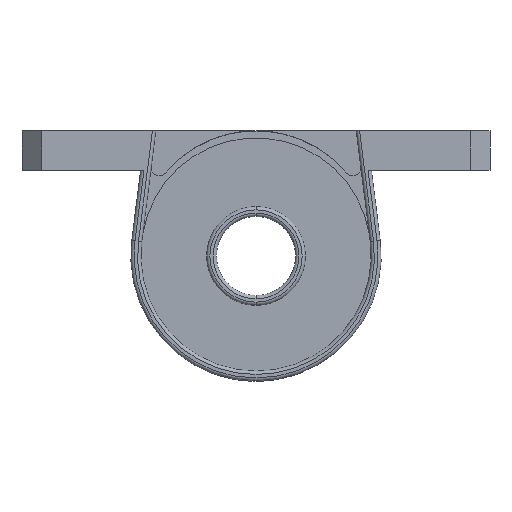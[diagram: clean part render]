
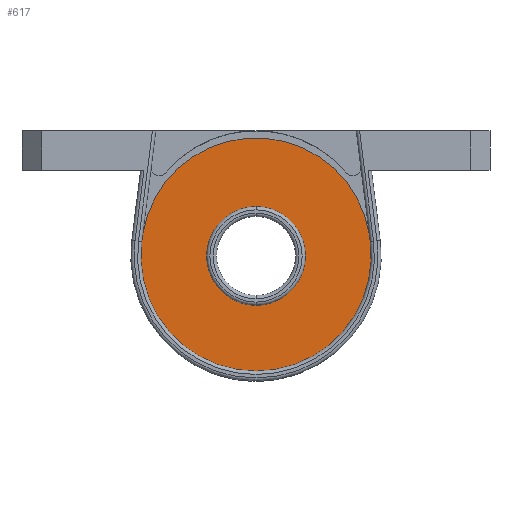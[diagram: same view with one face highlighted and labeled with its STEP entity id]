
A CAD part, front view. The second image highlights one B-rep face of the part: STEP entity #617.
In plain terms, the highlighted planar face has unit normal (0, -1, 0).
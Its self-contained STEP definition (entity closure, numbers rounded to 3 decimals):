
#617 = ADVANCED_FACE ( 'NONE', ( #7031, #7118 ), #7092, .F. ) ;
#827 = VECTOR ( 'NONE', #7172, 1000. ) ;
#836 = LINE ( 'NONE', #4026, #827 ) ;
#948 = ORIENTED_EDGE ( 'NONE', *, *, #9709, .T. ) ;
#952 = CIRCLE ( 'NONE', #1511, 17.47 ) ;
#969 = CARTESIAN_POINT ( 'NONE',  ( -17.332, -2.5, 2.194 ) ) ;
#980 = DIRECTION ( 'NONE',  ( -0.126, 0., -0.992 ) ) ;
#1070 = ORIENTED_EDGE ( 'NONE', *, *, #6196, .F. ) ;
#1168 = DIRECTION ( 'NONE',  ( 0., -1., 0. ) ) ;
#1235 = CARTESIAN_POINT ( 'NONE',  ( 0., -2.5, 7.5 ) ) ;
#1393 = DIRECTION ( 'NONE',  ( 0., -1., 0. ) ) ;
#1511 = AXIS2_PLACEMENT_3D ( 'NONE', #5959, #1168, #6739 ) ;
#1613 = DIRECTION ( 'NONE',  ( 0., 1., 0. ) ) ;
#1677 = DIRECTION ( 'NONE',  ( 0., -1., 0. ) ) ;
#1691 = CIRCLE ( 'NONE', #5586, 17.414 ) ;
#1709 = EDGE_CURVE ( 'NONE', #4967, #3657, #5557, .T. ) ;
#2015 = VERTEX_POINT ( 'NONE', #7539 ) ;
#3030 = EDGE_CURVE ( 'NONE', #5185, #9499, #3746, .T. ) ;
#3234 = ORIENTED_EDGE ( 'NONE', *, *, #1709, .F. ) ;
#3475 = CARTESIAN_POINT ( 'NONE',  ( 17.207, -2.5, 3.178 ) ) ;
#3563 = DIRECTION ( 'NONE',  ( 0., -1., 0. ) ) ;
#3657 = VERTEX_POINT ( 'NONE', #1235 ) ;
#3703 = VECTOR ( 'NONE', #980, 1000. ) ;
#3746 = LINE ( 'NONE', #5766, #3703 ) ;
#4026 = CARTESIAN_POINT ( 'NONE',  ( 17.332, -2.5, 2.194 ) ) ;
#4140 = VERTEX_POINT ( 'NONE', #3475 ) ;
#4213 = DIRECTION ( 'NONE',  ( 0., 1., 0. ) ) ;
#4917 = EDGE_LOOP ( 'NONE', ( #1070, #5037, #6339, #948, #7078 ) ) ;
#4954 = CARTESIAN_POINT ( 'NONE',  ( -17.207, -2.5, 3.178 ) ) ;
#4967 = VERTEX_POINT ( 'NONE', #6346 ) ;
#5037 = ORIENTED_EDGE ( 'NONE', *, *, #3030, .T. ) ;
#5070 = EDGE_CURVE ( 'NONE', #8487, #4140, #836, .T. ) ;
#5185 = VERTEX_POINT ( 'NONE', #4954 ) ;
#5341 = ORIENTED_EDGE ( 'NONE', *, *, #7930, .F. ) ;
#5557 = CIRCLE ( 'NONE', #7973, 7.5 ) ;
#5586 = AXIS2_PLACEMENT_3D ( 'NONE', #8771, #4213, #9495 ) ;
#5766 = CARTESIAN_POINT ( 'NONE',  ( -17.332, -2.5, 2.194 ) ) ;
#5959 = CARTESIAN_POINT ( 'NONE',  ( 0., -2.5, 0. ) ) ;
#6178 = CARTESIAN_POINT ( 'NONE',  ( 0., -2.5, 0. ) ) ;
#6196 = EDGE_CURVE ( 'NONE', #5185, #4140, #1691, .T. ) ;
#6289 = EDGE_LOOP ( 'NONE', ( #3234, #5341 ) ) ;
#6339 = ORIENTED_EDGE ( 'NONE', *, *, #9913, .T. ) ;
#6346 = CARTESIAN_POINT ( 'NONE',  ( 0., -2.5, -7.5 ) ) ;
#6450 = CARTESIAN_POINT ( 'NONE',  ( 0., -2.5, 0. ) ) ;
#6658 = CIRCLE ( 'NONE', #7527, 17.47 ) ;
#6739 = DIRECTION ( 'NONE',  ( 0., 0., 1. ) ) ;
#6954 = DIRECTION ( 'NONE',  ( 0., 0., 1. ) ) ;
#7031 = FACE_BOUND ( 'NONE', #6289, .T. ) ;
#7078 = ORIENTED_EDGE ( 'NONE', *, *, #5070, .T. ) ;
#7084 = AXIS2_PLACEMENT_3D ( 'NONE', #8166, #3563, #8907 ) ;
#7092 = PLANE ( 'NONE',  #8820 ) ;
#7118 = FACE_OUTER_BOUND ( 'NONE', #4917, .T. ) ;
#7172 = DIRECTION ( 'NONE',  ( -0.126, 0., 0.992 ) ) ;
#7210 = DIRECTION ( 'NONE',  ( 0., 0., 1. ) ) ;
#7519 = CIRCLE ( 'NONE', #7084, 7.5 ) ;
#7527 = AXIS2_PLACEMENT_3D ( 'NONE', #6178, #1393, #6954 ) ;
#7539 = CARTESIAN_POINT ( 'NONE',  ( 0., -2.5, -17.47 ) ) ;
#7930 = EDGE_CURVE ( 'NONE', #3657, #4967, #7519, .T. ) ;
#7973 = AXIS2_PLACEMENT_3D ( 'NONE', #6450, #1677, #7210 ) ;
#8166 = CARTESIAN_POINT ( 'NONE',  ( 0., -2.5, 0. ) ) ;
#8487 = VERTEX_POINT ( 'NONE', #9875 ) ;
#8585 = DIRECTION ( 'NONE',  ( 0., 0., 1. ) ) ;
#8771 = CARTESIAN_POINT ( 'NONE',  ( 0., -2.5, 0.5 ) ) ;
#8820 = AXIS2_PLACEMENT_3D ( 'NONE', #10015, #1613, #8585 ) ;
#8907 = DIRECTION ( 'NONE',  ( 0., 0., 1. ) ) ;
#9495 = DIRECTION ( 'NONE',  ( 0., 0., 1. ) ) ;
#9499 = VERTEX_POINT ( 'NONE', #969 ) ;
#9709 = EDGE_CURVE ( 'NONE', #2015, #8487, #6658, .T. ) ;
#9875 = CARTESIAN_POINT ( 'NONE',  ( 17.332, -2.5, 2.194 ) ) ;
#9913 = EDGE_CURVE ( 'NONE', #9499, #2015, #952, .T. ) ;
#10015 = CARTESIAN_POINT ( 'NONE',  ( 0., -2.5, 0. ) ) ;
